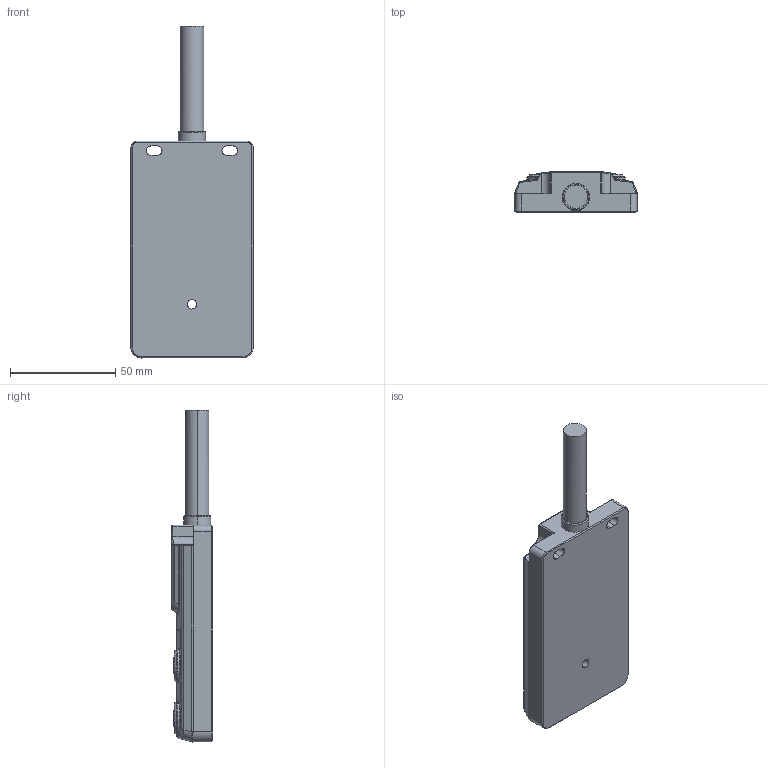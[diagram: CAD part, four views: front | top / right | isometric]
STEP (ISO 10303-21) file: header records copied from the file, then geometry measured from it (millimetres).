
FILE_DESCRIPTION (( 'STEP AP203' ), '1' );
FILE_NAME ('24P421(24N421).STEP', '2023-06-27T03:22:37', ( '' ), ( '' ), 'SwSTEP 2.0', 'SolidWorks 2016', '' );
FILE_SCHEMA (( 'CONFIG_CONTROL_DESIGN' ));
Products named in the file (1): 24P421(24N421)
Bounding box: 58 x 19.5 x 157.75 mm (x, y, z)
Volume: 99527.8 mm3; surface area: 24839.9 mm2
Topology: 1 solids, 1 shells, 1459 faces, 4036 edges, 2627 vertices
Faces by surface type: plane 707, cylinder 394, bspline 274, cone 84
Entity records: 86080 total; most frequent: CARTESIAN_POINT 52848, ORIENTED_EDGE 8064, DIRECTION 4987, EDGE_CURVE 4032, VERTEX_POINT 2627, LINE 1955, VECTOR 1955, B_SPLINE_CURVE_WITH_KNOTS 1711
